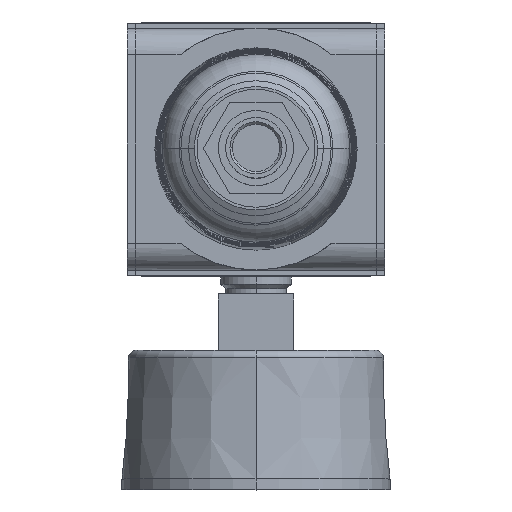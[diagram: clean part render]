
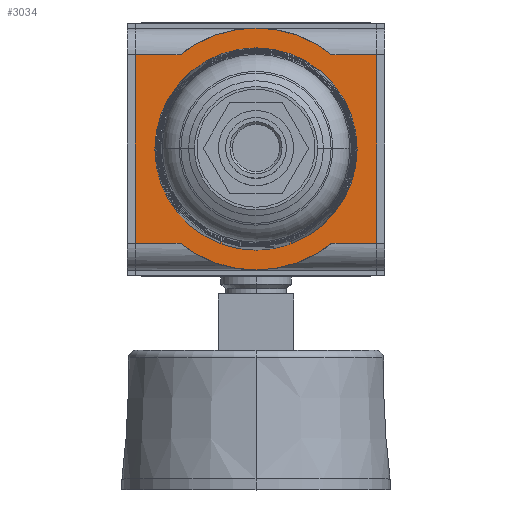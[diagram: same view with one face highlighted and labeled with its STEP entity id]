
A CAD part, top view. The second image highlights one B-rep face of the part: STEP entity #3034.
In plain terms, the highlighted planar face has unit normal (0, 0, 1).
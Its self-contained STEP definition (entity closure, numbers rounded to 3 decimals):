
#503=CARTESIAN_POINT('',(14.163,-17.56,26.));
#505=DIRECTION('',(1.,0.,0.));
#506=VECTOR('',#505,8.337);
#507=CARTESIAN_POINT('',(14.163,-17.56,26.));
#508=LINE('',#507,#506);
#514=DIRECTION('',(1.,0.,0.));
#515=VECTOR('',#514,8.337);
#516=CARTESIAN_POINT('',(-22.5,-17.56,26.));
#517=LINE('',#516,#515);
#518=CARTESIAN_POINT('',(-14.163,-17.56,26.));
#1052=DIRECTION('',(0.,-1.,0.));
#1053=VECTOR('',#1052,35.12);
#1054=CARTESIAN_POINT('',(-22.5,17.56,26.));
#1055=LINE('',#1054,#1053);
#1056=DIRECTION('',(1.,0.,0.));
#1057=VECTOR('',#1056,8.337);
#1058=CARTESIAN_POINT('',(-22.5,17.56,26.));
#1059=LINE('',#1058,#1057);
#1060=DIRECTION('',(1.,0.,0.));
#1061=VECTOR('',#1060,8.337);
#1062=CARTESIAN_POINT('',(14.163,17.56,26.));
#1063=LINE('',#1062,#1061);
#1064=DIRECTION('',(0.,-1.,0.));
#1065=VECTOR('',#1064,35.12);
#1066=CARTESIAN_POINT('',(22.5,17.56,26.));
#1067=LINE('',#1066,#1065);
#1073=CARTESIAN_POINT('',(14.163,17.56,26.));
#1126=CARTESIAN_POINT('',(-14.163,17.56,26.));
#1128=CARTESIAN_POINT('',(0.,0.,26.));
#1129=DIRECTION('',(0.,0.,1.));
#1130=DIRECTION('',(0.628,0.778,0.));
#1131=AXIS2_PLACEMENT_3D('',#1128,#1129,#1130);
#1133=CARTESIAN_POINT('',(0.,0.,26.));
#1134=DIRECTION('',(0.,0.,1.));
#1135=DIRECTION('',(-0.628,-0.778,0.));
#1136=AXIS2_PLACEMENT_3D('',#1133,#1134,#1135);
#1355=VERTEX_POINT('',#1126);
#1356=VERTEX_POINT('',#1073);
#1357=VERTEX_POINT('',#518);
#1359=VERTEX_POINT('',#503);
#1496=CARTESIAN_POINT('',(22.5,17.56,26.));
#1497=VERTEX_POINT('',#1496);
#1498=CARTESIAN_POINT('',(22.5,-17.56,26.));
#1499=VERTEX_POINT('',#1498);
#1560=CARTESIAN_POINT('',(-22.5,17.56,26.));
#1561=VERTEX_POINT('',#1560);
#1562=CARTESIAN_POINT('',(-22.5,-17.56,26.));
#1563=VERTEX_POINT('',#1562);
#3015=CARTESIAN_POINT('',(-24.,17.56,26.));
#3016=DIRECTION('',(0.,0.,1.));
#3017=DIRECTION('',(0.,-1.,0.));
#3018=AXIS2_PLACEMENT_3D('',#3015,#3016,#3017);
#3019=PLANE('',#3018);
#3020=ORIENTED_EDGE('',*,*,#1651,.F.);
#3022=ORIENTED_EDGE('',*,*,#3021,.T.);
#3024=ORIENTED_EDGE('',*,*,#3023,.F.);
#3026=ORIENTED_EDGE('',*,*,#3025,.T.);
#3027=ORIENTED_EDGE('',*,*,#2305,.T.);
#3028=ORIENTED_EDGE('',*,*,#2252,.F.);
#3030=ORIENTED_EDGE('',*,*,#3029,.F.);
#3031=ORIENTED_EDGE('',*,*,#2263,.F.);
#3032=EDGE_LOOP('',(#3020,#3022,#3024,#3026,#3027,#3028,#3030,#3031));
#3033=FACE_OUTER_BOUND('',#3032,.F.);
#3034=ADVANCED_FACE('',(#3033),#3019,.T.);
#1132=CIRCLE('',#1131,22.56);
#1137=CIRCLE('',#1136,22.56);
#1651=EDGE_CURVE('',#1561,#1563,#1055,.T.);
#2252=EDGE_CURVE('',#1359,#1499,#508,.T.);
#2263=EDGE_CURVE('',#1563,#1357,#517,.T.);
#2305=EDGE_CURVE('',#1497,#1499,#1067,.T.);
#3021=EDGE_CURVE('',#1561,#1355,#1059,.T.);
#3023=EDGE_CURVE('',#1356,#1355,#1132,.T.);
#3025=EDGE_CURVE('',#1356,#1497,#1063,.T.);
#3029=EDGE_CURVE('',#1357,#1359,#1137,.T.);
